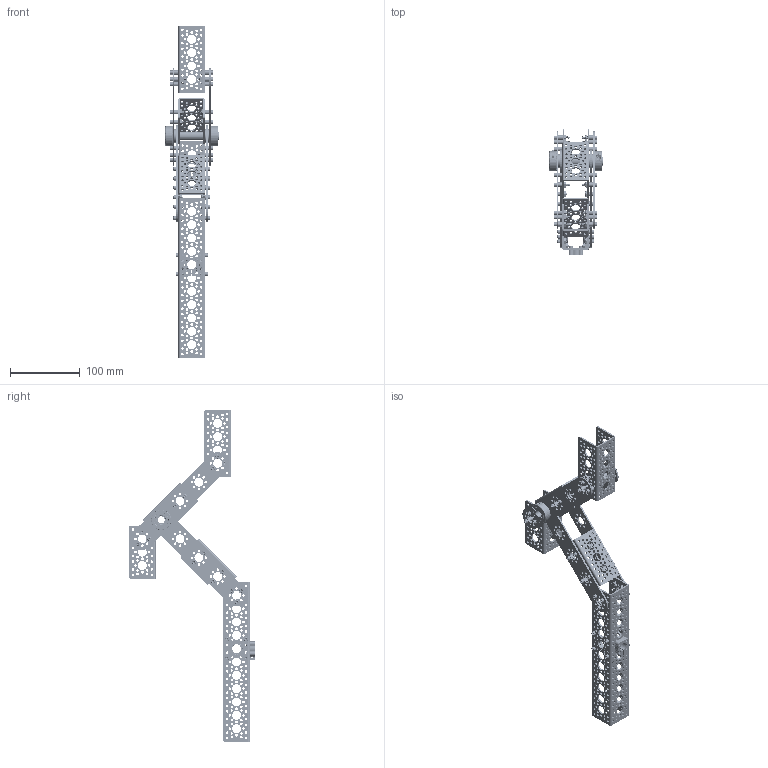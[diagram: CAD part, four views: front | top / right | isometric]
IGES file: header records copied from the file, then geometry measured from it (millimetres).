
Start section: SolidWorks IGES file using analytic representation for surfaces
Global section: file name: C:\Users\ejunkins\Desktop\osr\Mechanical\Rocker-Bogie\CAD\Rocker-Bogie Assembly.IGS; native system: SolidWorks 2016; preprocessor: SolidWorks 2016; author: ejunkins; date: 180403.160445; units: inch
Bounding box: 76.2 x 180.03 x 474.44 mm (x, y, z)
Surface area: 210933 mm2 (no closed solid volume)
Topology: 0 solids, 0 shells, 9157 faces, 137244 edges, 137160 vertices
Faces by surface type: revolution 7763, bspline 1394
